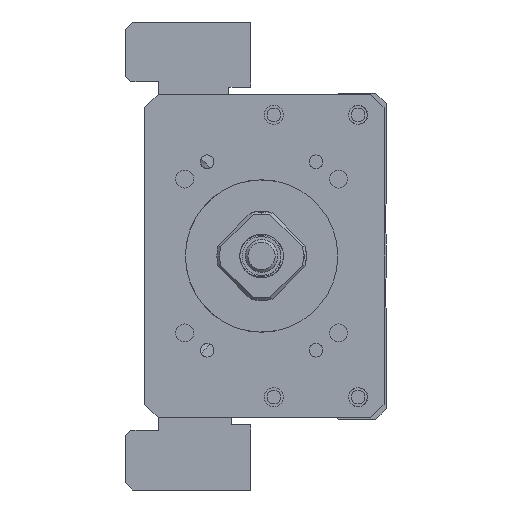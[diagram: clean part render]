
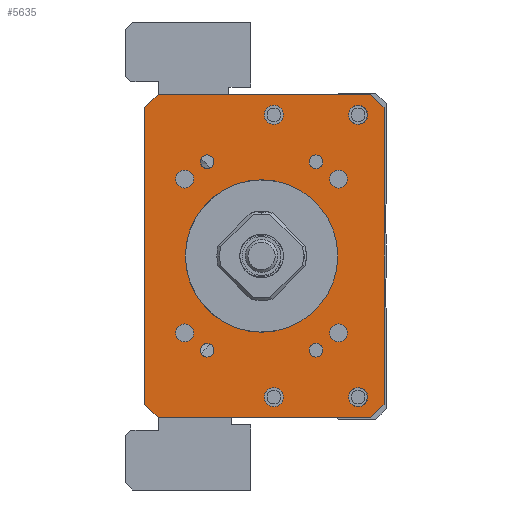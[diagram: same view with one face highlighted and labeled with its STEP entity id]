
A CAD part, left-side view. The second image highlights one B-rep face of the part: STEP entity #5635.
In plain terms, the highlighted planar face has unit normal (-1, 0, 0).
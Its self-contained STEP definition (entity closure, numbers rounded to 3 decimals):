
#4481=FACE_BOUND('',#7347,.T.);
#4482=FACE_BOUND('',#7348,.T.);
#4483=FACE_BOUND('',#7349,.T.);
#4484=FACE_BOUND('',#7350,.T.);
#4485=FACE_BOUND('',#7351,.T.);
#4486=FACE_BOUND('',#7352,.T.);
#4487=FACE_BOUND('',#7353,.T.);
#4488=FACE_BOUND('',#7354,.T.);
#4489=FACE_BOUND('',#7355,.T.);
#4490=FACE_BOUND('',#7356,.T.);
#4491=FACE_BOUND('',#7357,.T.);
#4492=FACE_BOUND('',#7358,.T.);
#4493=FACE_BOUND('',#7359,.T.);
#4494=FACE_BOUND('',#7360,.T.);
#5020=CIRCLE('',#15745,14.);
#5029=CIRCLE('',#15756,1.65);
#5030=CIRCLE('',#15757,1.65);
#5031=CIRCLE('',#15758,1.65);
#5032=CIRCLE('',#15759,1.65);
#5033=CIRCLE('',#15760,1.25);
#5034=CIRCLE('',#15761,1.75);
#5035=CIRCLE('',#15762,1.25);
#5036=CIRCLE('',#15763,1.75);
#5037=CIRCLE('',#15764,1.25);
#5038=CIRCLE('',#15765,1.75);
#5039=CIRCLE('',#15766,1.75);
#5040=CIRCLE('',#15767,1.25);
#5635=ADVANCED_FACE('',(#4481,#4482,#4483,#4484,#4485,#4486,#4487,#4488,
#4489,#4490,#4491,#4492,#4493,#4494),#6139,.F.);
#6139=PLANE('',#15768);
#7347=EDGE_LOOP('',(#9886));
#7348=EDGE_LOOP('',(#9887));
#7349=EDGE_LOOP('',(#9888));
#7350=EDGE_LOOP('',(#9889));
#7351=EDGE_LOOP('',(#9890));
#7352=EDGE_LOOP('',(#9891));
#7353=EDGE_LOOP('',(#9892));
#7354=EDGE_LOOP('',(#9893));
#7355=EDGE_LOOP('',(#9894));
#7356=EDGE_LOOP('',(#9895,#9896,#9897,#9898,#9899,#9900,#9901,#9902));
#7357=EDGE_LOOP('',(#9903));
#7358=EDGE_LOOP('',(#9904));
#7359=EDGE_LOOP('',(#9905));
#7360=EDGE_LOOP('',(#9906));
#9886=ORIENTED_EDGE('',*,*,#12787,.F.);
#9887=ORIENTED_EDGE('',*,*,#12788,.F.);
#9888=ORIENTED_EDGE('',*,*,#12789,.F.);
#9889=ORIENTED_EDGE('',*,*,#12790,.F.);
#9890=ORIENTED_EDGE('',*,*,#12791,.F.);
#9891=ORIENTED_EDGE('',*,*,#12792,.T.);
#9892=ORIENTED_EDGE('',*,*,#12793,.F.);
#9893=ORIENTED_EDGE('',*,*,#12794,.F.);
#9894=ORIENTED_EDGE('',*,*,#12795,.F.);
#9895=ORIENTED_EDGE('',*,*,#12784,.T.);
#9896=ORIENTED_EDGE('',*,*,#12796,.T.);
#9897=ORIENTED_EDGE('',*,*,#12797,.F.);
#9898=ORIENTED_EDGE('',*,*,#12798,.T.);
#9899=ORIENTED_EDGE('',*,*,#12799,.F.);
#9900=ORIENTED_EDGE('',*,*,#12800,.T.);
#9901=ORIENTED_EDGE('',*,*,#12801,.T.);
#9902=ORIENTED_EDGE('',*,*,#12802,.T.);
#9903=ORIENTED_EDGE('',*,*,#12803,.F.);
#9904=ORIENTED_EDGE('',*,*,#12804,.F.);
#9905=ORIENTED_EDGE('',*,*,#12805,.F.);
#9906=ORIENTED_EDGE('',*,*,#12764,.F.);
#11397=VERTEX_POINT('',#22105);
#11417=VERTEX_POINT('',#22165);
#11418=VERTEX_POINT('',#22167);
#11420=VERTEX_POINT('',#22173);
#11421=VERTEX_POINT('',#22175);
#11422=VERTEX_POINT('',#22177);
#11423=VERTEX_POINT('',#22179);
#11424=VERTEX_POINT('',#22181);
#11425=VERTEX_POINT('',#22183);
#11426=VERTEX_POINT('',#22185);
#11427=VERTEX_POINT('',#22187);
#11428=VERTEX_POINT('',#22189);
#11429=VERTEX_POINT('',#22191);
#11430=VERTEX_POINT('',#22193);
#11431=VERTEX_POINT('',#22195);
#11432=VERTEX_POINT('',#22197);
#11433=VERTEX_POINT('',#22199);
#11434=VERTEX_POINT('',#22201);
#11435=VERTEX_POINT('',#22204);
#11436=VERTEX_POINT('',#22206);
#11437=VERTEX_POINT('',#22208);
#12764=EDGE_CURVE('',#11397,#11397,#5020,.T.);
#12784=EDGE_CURVE('',#11418,#11417,#13912,.T.);
#12787=EDGE_CURVE('',#11420,#11420,#5029,.T.);
#12788=EDGE_CURVE('',#11421,#11421,#5030,.T.);
#12789=EDGE_CURVE('',#11422,#11422,#5031,.T.);
#12790=EDGE_CURVE('',#11423,#11423,#5032,.T.);
#12791=EDGE_CURVE('',#11424,#11424,#5033,.T.);
#12792=EDGE_CURVE('',#11425,#11425,#5034,.T.);
#12793=EDGE_CURVE('',#11426,#11426,#5035,.T.);
#12794=EDGE_CURVE('',#11427,#11427,#5036,.T.);
#12795=EDGE_CURVE('',#11428,#11428,#5037,.T.);
#12796=EDGE_CURVE('',#11417,#11429,#13914,.T.);
#12797=EDGE_CURVE('',#11430,#11429,#13915,.T.);
#12798=EDGE_CURVE('',#11430,#11431,#13916,.T.);
#12799=EDGE_CURVE('',#11432,#11431,#13917,.T.);
#12800=EDGE_CURVE('',#11432,#11433,#13918,.T.);
#12801=EDGE_CURVE('',#11433,#11434,#13919,.T.);
#12802=EDGE_CURVE('',#11434,#11418,#13920,.T.);
#12803=EDGE_CURVE('',#11435,#11435,#5038,.T.);
#12804=EDGE_CURVE('',#11436,#11436,#5039,.T.);
#12805=EDGE_CURVE('',#11437,#11437,#5040,.T.);
#13912=LINE('',#22166,#14825);
#13914=LINE('',#22190,#14827);
#13915=LINE('',#22192,#14828);
#13916=LINE('',#22194,#14829);
#13917=LINE('',#22196,#14830);
#13918=LINE('',#22198,#14831);
#13919=LINE('',#22200,#14832);
#13920=LINE('',#22202,#14833);
#14825=VECTOR('',#18405,1.);
#14827=VECTOR('',#18429,1.);
#14828=VECTOR('',#18430,1.);
#14829=VECTOR('',#18431,1.);
#14830=VECTOR('',#18432,1.);
#14831=VECTOR('',#18433,1.);
#14832=VECTOR('',#18434,1.);
#14833=VECTOR('',#18435,1.);
#15745=AXIS2_PLACEMENT_3D('',#22104,#18379,#18380);
#15756=AXIS2_PLACEMENT_3D('',#22172,#18411,#18412);
#15757=AXIS2_PLACEMENT_3D('',#22174,#18413,#18414);
#15758=AXIS2_PLACEMENT_3D('',#22176,#18415,#18416);
#15759=AXIS2_PLACEMENT_3D('',#22178,#18417,#18418);
#15760=AXIS2_PLACEMENT_3D('',#22180,#18419,#18420);
#15761=AXIS2_PLACEMENT_3D('',#22182,#18421,#18422);
#15762=AXIS2_PLACEMENT_3D('',#22184,#18423,#18424);
#15763=AXIS2_PLACEMENT_3D('',#22186,#18425,#18426);
#15764=AXIS2_PLACEMENT_3D('',#22188,#18427,#18428);
#15765=AXIS2_PLACEMENT_3D('',#22203,#18436,#18437);
#15766=AXIS2_PLACEMENT_3D('',#22205,#18438,#18439);
#15767=AXIS2_PLACEMENT_3D('',#22207,#18440,#18441);
#15768=AXIS2_PLACEMENT_3D('',#22209,#18442,#18443);
#18379=DIRECTION('',(-1.,0.,0.));
#18380=DIRECTION('',(0.,1.,0.));
#18405=DIRECTION('',(0.,0.,-1.));
#18411=DIRECTION('',(-1.,0.,0.));
#18412=DIRECTION('',(0.,0.,1.));
#18413=DIRECTION('',(-1.,0.,0.));
#18414=DIRECTION('',(0.,0.,1.));
#18415=DIRECTION('',(-1.,0.,0.));
#18416=DIRECTION('',(0.,0.,1.));
#18417=DIRECTION('',(-1.,0.,0.));
#18418=DIRECTION('',(0.,0.,1.));
#18419=DIRECTION('',(-1.,0.,0.));
#18420=DIRECTION('',(0.,1.,0.));
#18421=DIRECTION('',(1.,0.,0.));
#18422=DIRECTION('',(0.,0.,1.));
#18423=DIRECTION('',(-1.,0.,0.));
#18424=DIRECTION('',(0.,1.,0.));
#18425=DIRECTION('',(-1.,0.,0.));
#18426=DIRECTION('',(0.,0.,1.));
#18427=DIRECTION('',(-1.,0.,0.));
#18428=DIRECTION('',(0.,1.,0.));
#18429=DIRECTION('',(0.,-0.707,-0.707));
#18430=DIRECTION('',(0.,1.,0.));
#18431=DIRECTION('',(0.,-0.707,0.707));
#18432=DIRECTION('',(0.,0.,-1.));
#18433=DIRECTION('',(0.,0.707,0.707));
#18434=DIRECTION('',(0.,1.,0.));
#18435=DIRECTION('',(0.,0.707,-0.707));
#18436=DIRECTION('',(-1.,0.,0.));
#18437=DIRECTION('',(0.,0.,1.));
#18438=DIRECTION('',(-1.,0.,0.));
#18439=DIRECTION('',(0.,0.,1.));
#18440=DIRECTION('',(-1.,0.,0.));
#18441=DIRECTION('',(0.,1.,0.));
#18442=DIRECTION('',(1.,0.,0.));
#18443=DIRECTION('',(0.,1.,0.));
#22104=CARTESIAN_POINT('',(-211.,0.,-400.));
#22105=CARTESIAN_POINT('',(-211.,14.,-400.));
#22165=CARTESIAN_POINT('',(-211.,21.499,-427.25));
#22166=CARTESIAN_POINT('',(-211.,21.499,-370.25));
#22167=CARTESIAN_POINT('',(-211.,21.499,-372.75));
#22172=CARTESIAN_POINT('',(-211.,14.142,-385.858));
#22173=CARTESIAN_POINT('',(-211.,14.142,-384.208));
#22174=CARTESIAN_POINT('',(-211.,-14.142,-385.858));
#22175=CARTESIAN_POINT('',(-211.,-14.142,-384.208));
#22176=CARTESIAN_POINT('',(-211.,14.142,-414.142));
#22177=CARTESIAN_POINT('',(-211.,14.142,-412.492));
#22178=CARTESIAN_POINT('',(-211.,-14.142,-414.142));
#22179=CARTESIAN_POINT('',(-211.,-14.142,-412.492));
#22180=CARTESIAN_POINT('',(-211.,-10.,-417.321));
#22181=CARTESIAN_POINT('',(-211.,-8.75,-417.321));
#22182=CARTESIAN_POINT('',(-211.,-2.25,-425.936));
#22183=CARTESIAN_POINT('',(-211.,-2.25,-424.186));
#22184=CARTESIAN_POINT('',(-211.,10.,-382.679));
#22185=CARTESIAN_POINT('',(-211.,11.25,-382.679));
#22186=CARTESIAN_POINT('',(-211.,-2.25,-374.064));
#22187=CARTESIAN_POINT('',(-211.,-2.25,-372.314));
#22188=CARTESIAN_POINT('',(-211.,10.,-417.321));
#22189=CARTESIAN_POINT('',(-211.,11.25,-417.321));
#22190=CARTESIAN_POINT('',(-211.,18.999,-429.75));
#22191=CARTESIAN_POINT('',(-211.,18.999,-429.75));
#22192=CARTESIAN_POINT('',(-211.,-22.501,-429.75));
#22193=CARTESIAN_POINT('',(-211.,-20.001,-429.75));
#22194=CARTESIAN_POINT('',(-211.,-22.501,-427.25));
#22195=CARTESIAN_POINT('',(-211.,-22.501,-427.25));
#22196=CARTESIAN_POINT('',(-211.,-22.501,-370.25));
#22197=CARTESIAN_POINT('',(-211.,-22.501,-372.75));
#22198=CARTESIAN_POINT('',(-211.,-22.501,-372.75));
#22199=CARTESIAN_POINT('',(-211.,-20.001,-370.25));
#22200=CARTESIAN_POINT('',(-211.,-22.501,-370.25));
#22201=CARTESIAN_POINT('',(-211.,18.999,-370.25));
#22202=CARTESIAN_POINT('',(-211.,18.999,-370.25));
#22203=CARTESIAN_POINT('',(-211.,-17.75,-374.064));
#22204=CARTESIAN_POINT('',(-211.,-17.75,-372.314));
#22205=CARTESIAN_POINT('',(-211.,-17.75,-425.936));
#22206=CARTESIAN_POINT('',(-211.,-17.75,-424.186));
#22207=CARTESIAN_POINT('',(-211.,-10.,-382.679));
#22208=CARTESIAN_POINT('',(-211.,-8.75,-382.679));
#22209=CARTESIAN_POINT('',(-211.,-22.501,-370.25));
